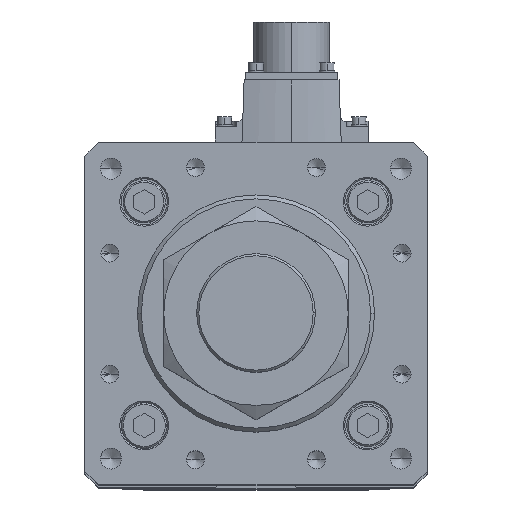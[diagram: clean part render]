
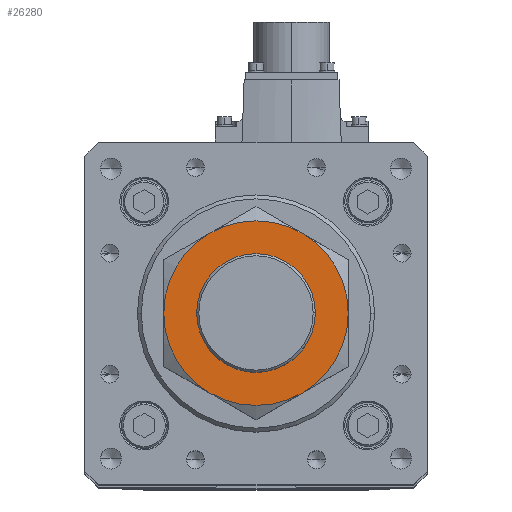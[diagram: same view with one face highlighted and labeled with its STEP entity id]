
A CAD part, top view. The second image highlights one B-rep face of the part: STEP entity #26280.
In plain terms, the highlighted planar face has unit normal (0, 0, 1).
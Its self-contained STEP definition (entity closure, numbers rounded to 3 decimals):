
#838 = CIRCLE ( 'NONE', #9039, 35. ) ;
#847 = AXIS2_PLACEMENT_3D ( 'NONE', #25560, #5456, #34870 ) ;
#1126 = EDGE_CURVE ( 'NONE', #21641, #19347, #25609, .T. ) ;
#1431 = DIRECTION ( 'NONE',  ( -1., 0., 0. ) ) ;
#1917 = ORIENTED_EDGE ( 'NONE', *, *, #28826, .F. ) ;
#2521 = ORIENTED_EDGE ( 'NONE', *, *, #29825, .F. ) ;
#2607 = DIRECTION ( 'NONE',  ( 0., 0., 1. ) ) ;
#3134 = DIRECTION ( 'NONE',  ( -1., 0., 0. ) ) ;
#3971 = DIRECTION ( 'NONE',  ( 0., 0., -1. ) ) ;
#4021 = AXIS2_PLACEMENT_3D ( 'NONE', #34013, #8106, #10814 ) ;
#5204 = CARTESIAN_POINT ( 'NONE',  ( 17.5, -30.311, 27. ) ) ;
#5456 = DIRECTION ( 'NONE',  ( 0., 0., -1. ) ) ;
#6114 = CARTESIAN_POINT ( 'NONE',  ( -17.5, -30.311, 27. ) ) ;
#6239 = DIRECTION ( 'NONE',  ( 0., 0., -1. ) ) ;
#7035 = VERTEX_POINT ( 'NONE', #32670 ) ;
#8093 = CARTESIAN_POINT ( 'NONE',  ( -22.5, 0., 27. ) ) ;
#8106 = DIRECTION ( 'NONE',  ( 0., 0., 1. ) ) ;
#9039 = AXIS2_PLACEMENT_3D ( 'NONE', #35533, #6239, #3134 ) ;
#9350 = VERTEX_POINT ( 'NONE', #6114 ) ;
#10025 = CARTESIAN_POINT ( 'NONE',  ( -17.5, 30.311, 27. ) ) ;
#10088 = CARTESIAN_POINT ( 'NONE',  ( 17.5, 30.311, 27. ) ) ;
#10169 = ORIENTED_EDGE ( 'NONE', *, *, #10613, .F. ) ;
#10613 = EDGE_CURVE ( 'NONE', #9350, #29678, #838, .T. ) ;
#10814 = DIRECTION ( 'NONE',  ( 1., 0., 0. ) ) ;
#12189 = EDGE_LOOP ( 'NONE', ( #21696, #32763, #29808, #22771, #10169, #1917 ) ) ;
#13054 = CIRCLE ( 'NONE', #4021, 22.5 ) ;
#13191 = DIRECTION ( 'NONE',  ( 0., 0., -1. ) ) ;
#14914 = DIRECTION ( 'NONE',  ( 0., 0., -1. ) ) ;
#15036 = DIRECTION ( 'NONE',  ( -1., 0., 0. ) ) ;
#15605 = CARTESIAN_POINT ( 'NONE',  ( 0., 0., 27. ) ) ;
#15970 = AXIS2_PLACEMENT_3D ( 'NONE', #19200, #25240, #25115 ) ;
#16377 = CARTESIAN_POINT ( 'NONE',  ( 0., 0., 27. ) ) ;
#17119 = ORIENTED_EDGE ( 'NONE', *, *, #22579, .F. ) ;
#18314 = DIRECTION ( 'NONE',  ( 1., 0., 0. ) ) ;
#19200 = CARTESIAN_POINT ( 'NONE',  ( 0., 0., 27. ) ) ;
#19347 = VERTEX_POINT ( 'NONE', #10088 ) ;
#19604 = CIRCLE ( 'NONE', #30044, 22.5 ) ;
#19921 = CARTESIAN_POINT ( 'NONE',  ( 35., 0., 27. ) ) ;
#20241 = CARTESIAN_POINT ( 'NONE',  ( 0., 0., 27. ) ) ;
#21006 = CIRCLE ( 'NONE', #847, 35. ) ;
#21244 = VERTEX_POINT ( 'NONE', #19921 ) ;
#21641 = VERTEX_POINT ( 'NONE', #10025 ) ;
#21696 = ORIENTED_EDGE ( 'NONE', *, *, #32392, .F. ) ;
#22500 = FACE_BOUND ( 'NONE', #30509, .T. ) ;
#22579 = EDGE_CURVE ( 'NONE', #7035, #32723, #19604, .T. ) ;
#22771 = ORIENTED_EDGE ( 'NONE', *, *, #38227, .F. ) ;
#23234 = CIRCLE ( 'NONE', #26340, 35. ) ;
#24004 = EDGE_CURVE ( 'NONE', #19347, #21244, #35652, .T. ) ;
#24168 = CIRCLE ( 'NONE', #27718, 35. ) ;
#25115 = DIRECTION ( 'NONE',  ( -1., 0., 0. ) ) ;
#25240 = DIRECTION ( 'NONE',  ( 0., 0., -1. ) ) ;
#25560 = CARTESIAN_POINT ( 'NONE',  ( 0., 0., 27. ) ) ;
#25609 = CIRCLE ( 'NONE', #25805, 35. ) ;
#25805 = AXIS2_PLACEMENT_3D ( 'NONE', #30861, #13191, #27373 ) ;
#26280 = ADVANCED_FACE ( 'NONE', ( #28538, #22500 ), #37944, .T. ) ;
#26340 = AXIS2_PLACEMENT_3D ( 'NONE', #26787, #14914, #15036 ) ;
#26787 = CARTESIAN_POINT ( 'NONE',  ( 0., 0., 27. ) ) ;
#27373 = DIRECTION ( 'NONE',  ( -1., 0., 0. ) ) ;
#27718 = AXIS2_PLACEMENT_3D ( 'NONE', #16377, #3971, #1431 ) ;
#28538 = FACE_OUTER_BOUND ( 'NONE', #12189, .T. ) ;
#28826 = EDGE_CURVE ( 'NONE', #38246, #9350, #24168, .T. ) ;
#29678 = VERTEX_POINT ( 'NONE', #36363 ) ;
#29808 = ORIENTED_EDGE ( 'NONE', *, *, #1126, .F. ) ;
#29825 = EDGE_CURVE ( 'NONE', #32723, #7035, #13054, .T. ) ;
#30044 = AXIS2_PLACEMENT_3D ( 'NONE', #15605, #36012, #18314 ) ;
#30509 = EDGE_LOOP ( 'NONE', ( #2521, #17119 ) ) ;
#30861 = CARTESIAN_POINT ( 'NONE',  ( 0., 0., 27. ) ) ;
#32372 = AXIS2_PLACEMENT_3D ( 'NONE', #20241, #2607, #35101 ) ;
#32392 = EDGE_CURVE ( 'NONE', #21244, #38246, #23234, .T. ) ;
#32670 = CARTESIAN_POINT ( 'NONE',  ( 22.5, 0., 27. ) ) ;
#32723 = VERTEX_POINT ( 'NONE', #8093 ) ;
#32763 = ORIENTED_EDGE ( 'NONE', *, *, #24004, .F. ) ;
#34013 = CARTESIAN_POINT ( 'NONE',  ( 0., 0., 27. ) ) ;
#34870 = DIRECTION ( 'NONE',  ( -1., 0., 0. ) ) ;
#35101 = DIRECTION ( 'NONE',  ( 1., 0., 0. ) ) ;
#35533 = CARTESIAN_POINT ( 'NONE',  ( 0., 0., 27. ) ) ;
#35652 = CIRCLE ( 'NONE', #15970, 35. ) ;
#36012 = DIRECTION ( 'NONE',  ( 0., 0., 1. ) ) ;
#36363 = CARTESIAN_POINT ( 'NONE',  ( -35., 0., 27. ) ) ;
#37944 = PLANE ( 'NONE',  #32372 ) ;
#38227 = EDGE_CURVE ( 'NONE', #29678, #21641, #21006, .T. ) ;
#38246 = VERTEX_POINT ( 'NONE', #5204 ) ;
